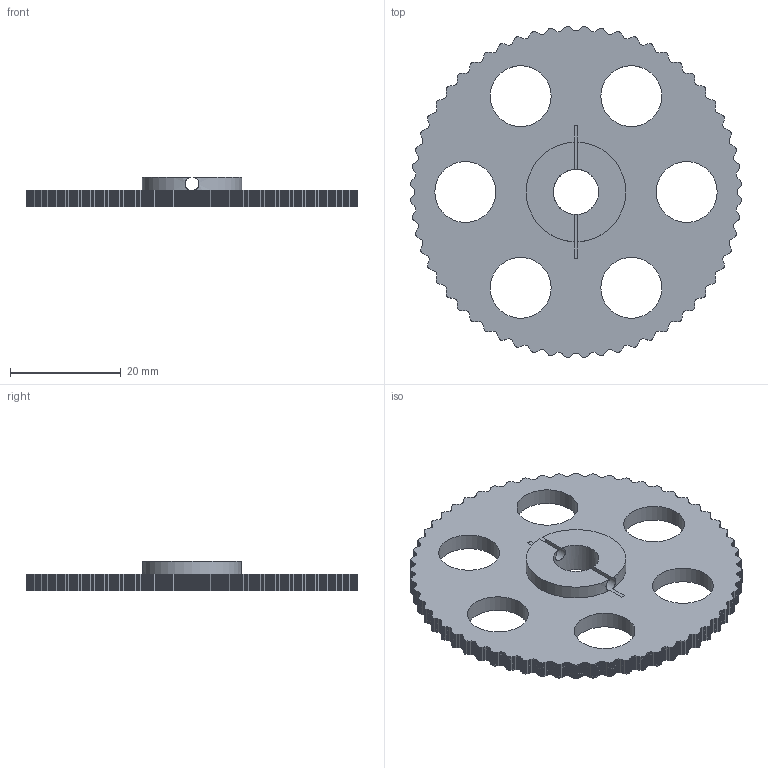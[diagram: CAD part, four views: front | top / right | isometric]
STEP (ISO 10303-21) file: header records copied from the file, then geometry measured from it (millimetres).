
FILE_DESCRIPTION(('Open CASCADE Model'),'2;1');
FILE_NAME('DEM_cam','2026-11-05T16:12:36',('Author'),('Open CASCADE'), 'Open CASCADE STEP processor 7.9','build123d','Unknown');
FILE_SCHEMA(('AUTOMOTIVE_DESIGN { 1 0 10303 214 1 1 1 1 }'));
Length unit declared in the file: millimetre
Products named in the file (2): DEM_cam
Assembly tree (1 placements, depth 2):
  DEM_cam
    DEM_cam
Bounding box: 59.91 x 59.91 x 5.4 mm (x, y, z)
Volume: 6797.2 mm3; surface area: 5840.2 mm2
Topology: 1 solids, 1 shells, 1097 faces, 3285 edges, 2190 vertices
Faces by surface type: plane 966, cylinder 131
Full cylindrical faces by diameter (mm): 8.2 x1, 11 x6
Entity records: 80740 total; most frequent: CARTESIAN_POINT 15460, DIRECTION 12045, LINE 9303, VECTOR 9303, ORIENTED_EDGE 6570, PCURVE 6570, DEFINITIONAL_REPRESENTATION 6570, EDGE_CURVE 3285
